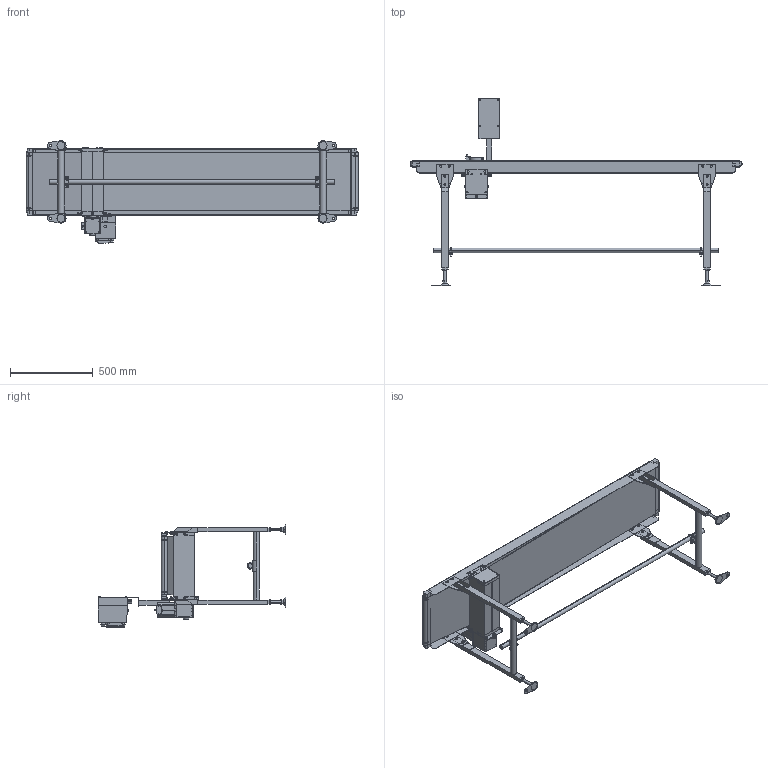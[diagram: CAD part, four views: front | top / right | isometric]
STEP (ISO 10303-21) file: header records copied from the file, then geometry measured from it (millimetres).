
FILE_DESCRIPTION (( 'STEP AP214' ), '1' );
FILE_NAME ('FSDHS-350-2000-R.STEP', '2023-04-20T23:37:02', ( '' ), ( '' ), 'SwSTEP 2.0', 'SolidWorks 2017', '' );
FILE_SCHEMA (( 'AUTOMOTIVE_DESIGN' ));
Length unit declared in the file: millimetre
Products named in the file (1): FSDHS-350-2000-R
Bounding box: 2001.4 x 1131 x 619.99 mm (x, y, z)
Volume: 22047020.9 mm3; surface area: 7113432.1 mm2
Topology: 48 solids, 54 shells, 2266 faces, 5572 edges, 3646 vertices
Faces by surface type: plane 1470, cylinder 733, cone 45, bspline 14, torus 4
Entity records: 94319 total; most frequent: CARTESIAN_POINT 13679, DIRECTION 11636, ORIENTED_EDGE 11124, EDGE_CURVE 5562, AXIS2_PLACEMENT_3D 3894, LINE 3848, VECTOR 3848, VERTEX_POINT 3646
